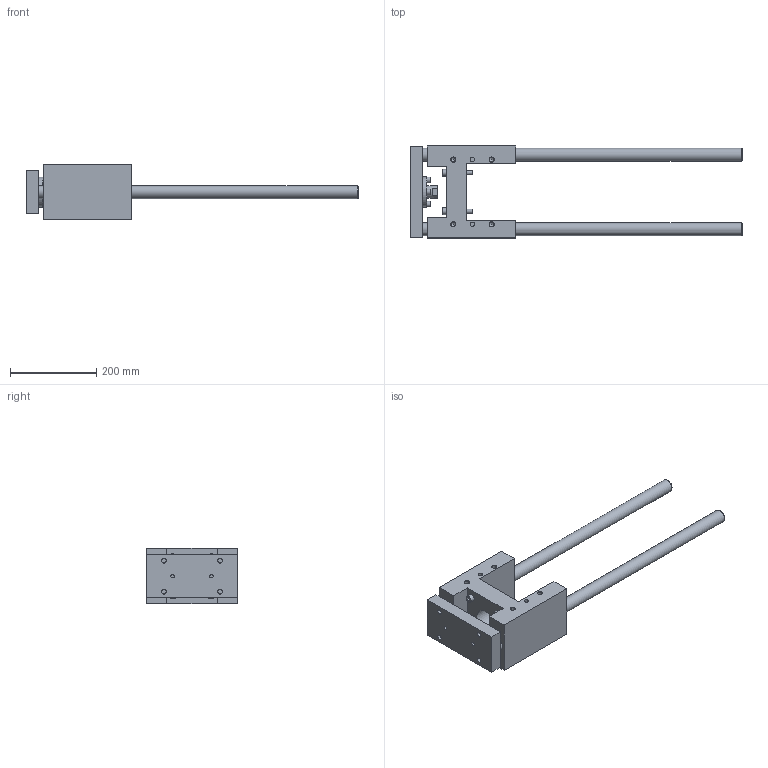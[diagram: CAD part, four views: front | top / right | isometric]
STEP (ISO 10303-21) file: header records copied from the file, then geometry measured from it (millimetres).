
FILE_DESCRIPTION( ( 'STEP AP214' ), '1' );
FILE_NAME( 'U:/Etudes/Top Solid/BIBLIO 3D AVM/TOP/PNEUMATIQUE/GUIDAGES/Type 32 (en H)/R_Renforcée/329R8130.step', '2005-05-27T09:22:27', ( ' ' ), ( ' ' ), 'XStep 1.0', ' ', ' ' );
FILE_SCHEMA( ( 'automotive_design' ) );
Length unit declared in the file: metre
Products named in the file (2): 1; 2
Bounding box: 769 x 213 x 129 mm (x, y, z)
Volume: 4301693.4 mm3; surface area: 475828.5 mm2
Topology: 2 solids, 7 shells, 207 faces, 460 edges, 303 vertices
Faces by surface type: plane 118, cylinder 68, cone 21
Full cylindrical faces by diameter (mm): 8 x10, 8.5 x4, 10 x10, 10.106 x12, 11 x8, 13 x4, 16 x4, 18 x4, 18.376 x2, 29 x1, 30 x4, 32 x1, 42 x1, 45 x1, 55 x1, 70 x1
Entity records: 6989 total; most frequent: CARTESIAN_POINT 1089, DIRECTION 880, ORIENTED_EDGE 678, EDGE_LOOP 360, AXIS2_PLACEMENT_3D 340, EDGE_CURVE 339, VERTEX_POINT 277, FACE_OUTER_BOUND 275
